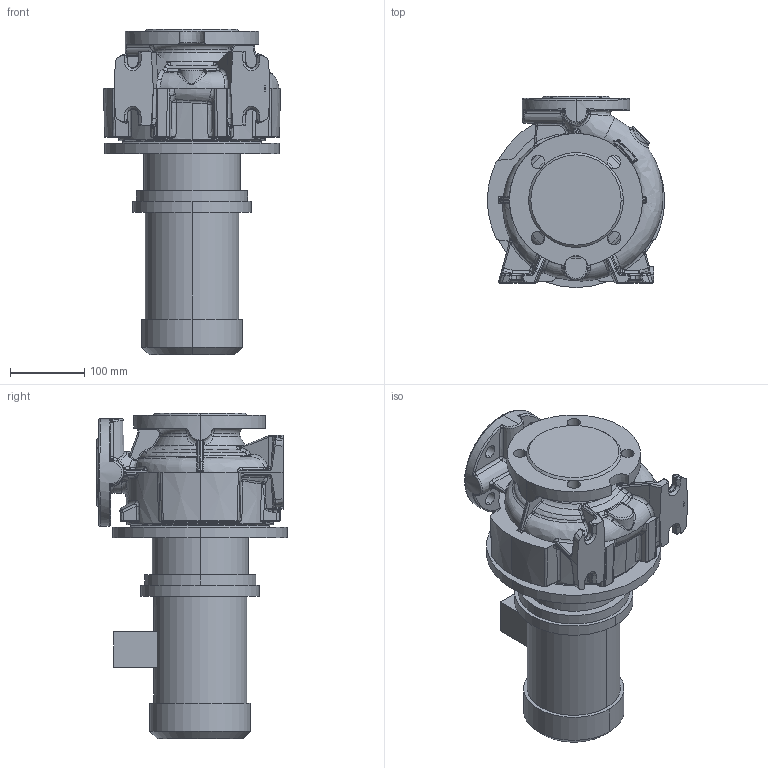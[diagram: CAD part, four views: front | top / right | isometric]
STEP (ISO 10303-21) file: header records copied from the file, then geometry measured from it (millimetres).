
FILE_DESCRIPTION (( 'STEP AP214' ), '1' );
FILE_NAME ('KRM 65-40-125-4-0,37.STEP', '2026-04-24T07:42:40', ( '' ), ( '' ), 'SwSTEP 2.0', 'SolidWorks 2016', '' );
FILE_SCHEMA (( 'AUTOMOTIVE_DESIGN' ));
Length unit declared in the file: millimetre
Products named in the file (1): KRM  65-40-125-4-0,37
Bounding box: 239.46 x 258 x 439.8 mm (x, y, z)
Volume: 9824388.1 mm3; surface area: 637655.7 mm2
Topology: 5 solids, 5 shells, 924 faces, 2197 edges, 1268 vertices
Faces by surface type: bspline 403, cylinder 205, plane 142, torus 70, sphere 54, cone 50
Entity records: 69049 total; most frequent: CARTESIAN_POINT 40853, ORIENTED_EDGE 4330, DIRECTION 3077, EDGE_CURVE 2165, AXIS2_PLACEMENT_3D 1334, VERTEX_POINT 1264, EDGE_LOOP 953, UNCERTAINTY_MEASURE_WITH_UNIT 931
